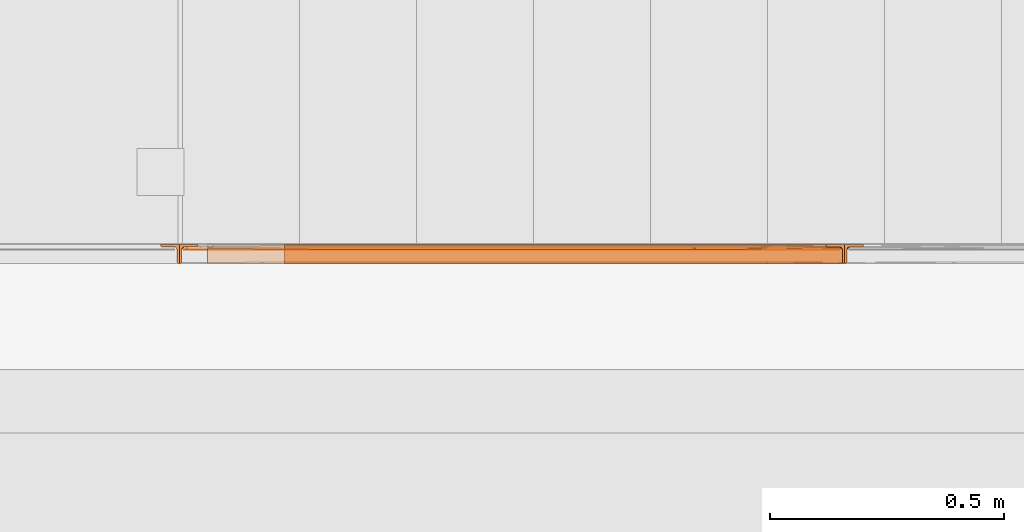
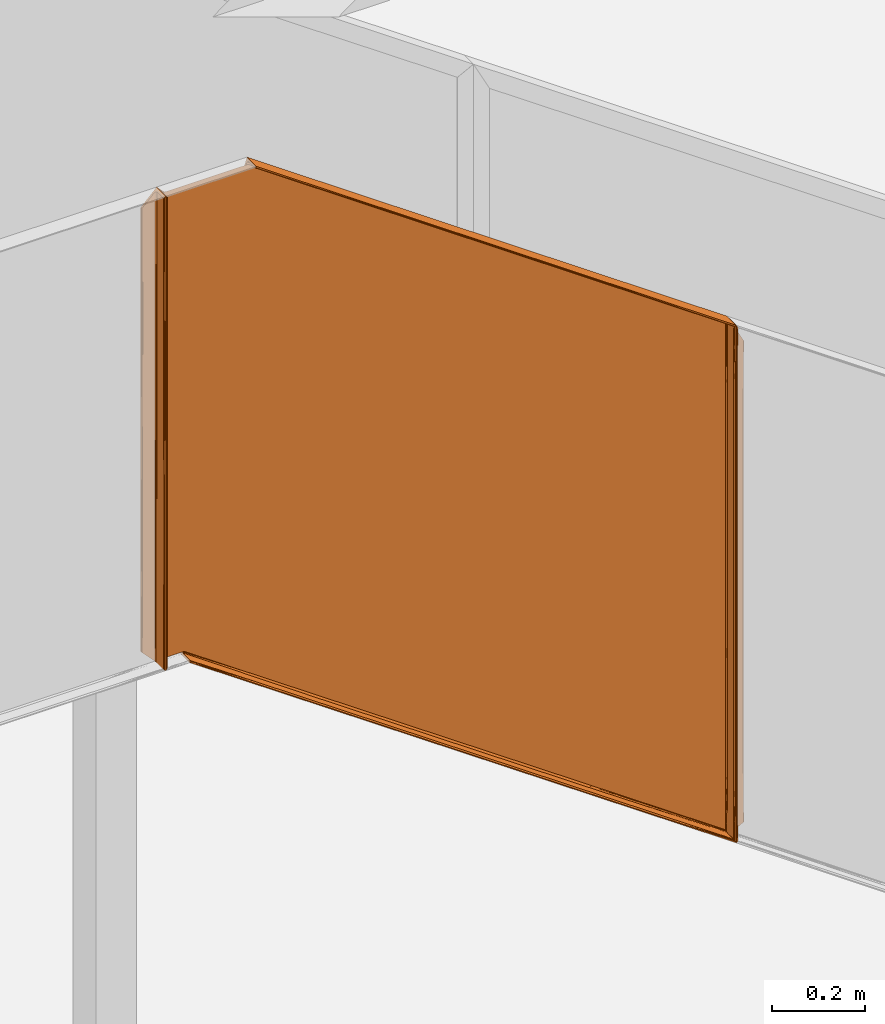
# One storey, part 217 of 230: 7 proxies.
"""IFC4X3_ADD2 building model written with IfcOpenShell, lengths in millimetres."""

from ifc_helpers import new_model, si_unit, direction, frame, origin_with_axes, place, context, subcontext, project, spatial, triangles, polygons, source, transform, mapped, material, type_object, type_shapes, element, save


model = new_model("IFC4X3_ADD2")

# Units and contexts
model_context = context("Model", 3, precision=1e-05, world=origin_with_axes(), true_north=direction((0.0, 1.0)))
body_context = subcontext(model_context, "Body", "Model", "MODEL_VIEW")
ifc_project = project(units=[si_unit("LENGTHUNIT", "METRE", prefix="MILLI"), si_unit("AREAUNIT", "SQUARE_METRE"), si_unit("VOLUMEUNIT", "CUBIC_METRE"), si_unit("PLANEANGLEUNIT", "RADIAN"), si_unit("TIMEUNIT", "SECOND"), si_unit("MASSUNIT", "GRAM")], contexts=[model_context])

# Site, building, storey
site_placement = place(None, origin_with_axes())
site = spatial("IfcSite", under=ifc_project, at=site_placement, Name="Site", CompositionType="ELEMENT")
building_placement = place(site_placement, origin_with_axes())
building = spatial("IfcBuilding", under=site, at=building_placement, Name="IFC Building Story")
storey_placement = place(building_placement, origin_with_axes())
storey = spatial("IfcBuildingStorey", under=building, at=storey_placement, Name="ETAGE 00 (0)", Elevation=0.0)

# Proxies
ifc_material = material(Name="<Unnamed>")
building_element_proxy_type_1 = type_object("IfcBuildingElementProxyType", Name="31", PredefinedType="NOTDEFINED")
shared_shape_1 = source(origin_with_axes(), body_context, "Body", "Tessellation", [
    polygons([(40.0, 0.0, 1250.0), (40.0, 0.0, 0.0), (38.0000000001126, 0.0, 0.0), (38.0000000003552, 0.0, 1248.00000000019), (0.0, 37.9999999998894, 40.0), (0.0, 40.0, 40.0), (0.0, 40.0, 1210.0), (0.0, 38.0000000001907, 1210.0), (40.0, 40.0, 0.0), (38.0000000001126, 40.0, 0.0), (36.3332893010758, 0.505591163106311, 1.75443231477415), (35.22836140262, 1.85194970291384, 2.91751431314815), (36.3332893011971, 0.505591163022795, 1246.33328930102), (35.0000000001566, 2.99999999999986, 3.1578947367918), (35.2283614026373, 1.85194970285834, 1245.22836140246), (35.0000000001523, 2.99999999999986, 1244.99999999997), (40.0, 40.0, 1250.0), (1.3332893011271, 35.5055911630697, 38.5965375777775), (0.228361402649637, 36.8519497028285, 39.7596195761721), (3.00000000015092, 35.0, 1212.99999999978), (3.00000000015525, 35.0, 36.8421052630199), (1.33328930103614, 35.5055911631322, 1211.33328930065), (0.228361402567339, 36.8519497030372, 1210.22836140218), (29.000000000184, 35.0000000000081, 9.47368421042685), (29.0000000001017, 35.0000000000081, 1238.99999999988), (31.9023133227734, 34.2513405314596, 6.41861755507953), (30.9816743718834, 34.6632999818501, 7.387711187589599), (32.7409388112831, 33.6909888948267, 1242.74093881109), (30.9816743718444, 34.6632999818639, 1240.98167437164), (34.663299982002, 30.9816743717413, 3.51231580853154), (33.6909888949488, 32.7409388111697, 4.5358011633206), (33.6909888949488, 32.7409388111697, 1243.69098889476), (32.6683980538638, 33.6044397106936, 5.61221257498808), (34.8495674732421, 30.3351256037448, 1244.84956747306), (35.0000000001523, 28.9999999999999, 1244.99999999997), (35.0000000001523, 28.9999999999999, 3.1578947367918)], [[[1, 2, 3, 4]], [[5, 6, 7, 8]], [[3, 2, 9, 10]], [[11, 12, 4]], [[4, 3, 11]], [[13, 4, 12]], [[12, 14, 13]], [[15, 13, 14]], [[14, 16, 15]], [[9, 2, 1, 17]], [[6, 10, 9]], [[6, 9, 17]], [[6, 17, 7]], [[18, 19, 20]], [[20, 21, 18]], [[22, 20, 19]], [[19, 5, 22]], [[23, 22, 5]], [[5, 8, 23]], [[24, 21, 20, 25]], [[26, 27, 28]], [[29, 28, 27]], [[27, 24, 25, 29]], [[30, 31, 32]], [[33, 28, 32]], [[32, 31, 33]], [[34, 35, 36]], [[36, 32, 34]], [[32, 36, 30]], [[28, 33, 26]], [[14, 36, 35, 16]], [[36, 14, 12]], [[36, 12, 11]], [[36, 11, 3]], [[36, 3, 10]], [[10, 30, 36]], [[10, 31, 30]], [[10, 33, 31]], [[10, 26, 33]], [[10, 27, 26]], [[10, 24, 27]], [[10, 6, 5]], [[10, 5, 19]], [[10, 19, 18]], [[10, 18, 21]], [[10, 21, 24]], [[35, 16, 15]], [[35, 15, 13]], [[35, 13, 4]], [[35, 4, 1]], [[35, 1, 17]], [[17, 34, 35]], [[17, 32, 34]], [[17, 28, 32]], [[17, 29, 28]], [[17, 25, 29]], [[17, 7, 8]], [[17, 8, 23]], [[17, 23, 22]], [[17, 22, 20]], [[17, 20, 25]]]),
])
type_shapes(building_element_proxy_type_1, [shared_shape_1])
proxy_1_placement = place(storey_placement, frame((34874.5206959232, 657.499963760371, 1670.0), z_axis=(0.0, 0.0, 1.0), x_axis=(1.0, 0.0, 0.0)))
element("IfcBuildingElementProxy", 1, at=proxy_1_placement, inside=storey, type_object=building_element_proxy_type_1, material=ifc_material, Name="16:5236", ObjectType="16:5236", context=body_context, shape_type="MappedRepresentation", body=[
    mapped(shared_shape_1, transform((0.0, 0.0, 0.0))),
])
building_element_proxy_type_2 = type_object("IfcBuildingElementProxyType", Name="33", PredefinedType="NOTDEFINED")
shared_shape_2 = source(origin_with_axes(), body_context, "Body", "Tessellation", [
    triangles([(34986.1109985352, 697.499867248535, 1709.99998397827), (36296.6891418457, 697.499867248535, 794.6262062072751), (35145.4733642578, 695.4999893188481, 1598.69326057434), (34986.1109985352, 695.4999893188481, 1709.99998397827), (36296.6891418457, 695.4999893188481, 794.6262062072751), (35649.3844665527, 657.4946056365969, 1200.34606361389), (36163.3623962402, 657.4986751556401, 841.30816783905), (36336.6890258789, 657.5223655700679, 717.7869283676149), (36334.6891479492, 657.499983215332, 721.628917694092), (34973.5629272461, 657.478327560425, 1669.9999546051), (34974.1907958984, 657.489373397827, 1672.00012321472), (35989.4660339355, 686.4999572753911, 966.447985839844), (36329.2592468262, 691.3235000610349, 732.0583683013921), (36330.1289611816, 690.721211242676, 730.3899381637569), (36331.2219177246, 689.073492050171, 728.2922464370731), (36331.6288696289, 687.4885597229, 727.5065385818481), (36331.6893310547, 686.4999572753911, 727.3918653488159), (35987.9010131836, 689.445562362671, 971.117177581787), (35647.7706115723, 689.584507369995, 1208.87657489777), (35305.01943969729, 686.501556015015, 1444.55891876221), (35307.4495239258, 689.572589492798, 1446.58568458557), (34975.3930480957, 689.4829147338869, 1675.83579025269), (34975.7558166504, 690.7584182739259, 1676.98906288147), (34975.132598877, 686.4999572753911, 1675.00023078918), (36325.6896972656, 692.4988643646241, 738.9177606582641), (36328.5011535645, 691.8499214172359, 733.5168548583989), (35309.7935668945, 692.500608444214, 1448.54443130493), (34975.876739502, 691.188915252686, 1677.37828330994), (34976.8836547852, 692.480260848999, 1680.5850643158), (34977.0138793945, 692.5004631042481, 1681.00044593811), (34985.1691955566, 692.50075378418, 1707.00016708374), (35142.5247070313, 692.500608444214, 1597.09408493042), (36134.3804443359, 692.500317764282, 904.324742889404), (36299.6889587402, 692.5001724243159, 788.863258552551), (36296.7844848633, 694.6525119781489, 794.444240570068), (36297.121673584, 693.8393348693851, 793.7982044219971), (36298.5006591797, 692.7378032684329, 791.145459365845), (34985.7249755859, 693.121064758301, 1708.77127990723), (34986.0017028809, 694.1367004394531, 1709.65494689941), (35137.57384643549, 660.4999454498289, 1561.52852325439), (36331.6916564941, 660.4976200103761, 727.393754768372), (34974.9930725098, 658.972422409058, 1674.56130409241), (34975.132598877, 660.4999454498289, 1675.00023078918), (34974.7419250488, 658.105469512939, 1673.7559753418), (36331.8335083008, 659.4687583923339, 727.116882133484), (36333.758972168, 657.6541889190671, 723.417035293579), (36332.1823242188, 658.737117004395, 726.44381275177), (34973.5629272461, 697.499867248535, 1669.9999546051), (36336.6890258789, 697.499867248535, 717.7869283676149)], [[1, 2, 3], [3, 4, 1], [5, 3, 2], [6, 7, 8], [9, 8, 7], [8, 10, 6], [6, 10, 11], [12, 13, 14], [12, 15, 16], [12, 16, 17], [12, 14, 15], [18, 12, 19], [19, 20, 21], [20, 19, 12], [21, 22, 23], [21, 20, 22], [20, 24, 22], [18, 25, 26], [18, 25, 19], [19, 27, 21], [27, 19, 25], [18, 26, 13], [27, 23, 28], [27, 29, 30], [27, 28, 29], [27, 21, 23], [13, 12, 18], [31, 32, 30], [30, 32, 27], [33, 34, 25], [25, 27, 33], [33, 27, 32], [5, 33, 3], [32, 3, 33], [33, 5, 35], [33, 36, 37], [33, 35, 36], [33, 37, 34], [32, 31, 38], [3, 39, 4], [3, 38, 39], [38, 3, 32], [11, 40, 6], [6, 41, 7], [41, 6, 40], [40, 42, 43], [40, 44, 42], [40, 11, 44], [7, 41, 45], [7, 46, 9], [7, 47, 46], [7, 45, 47], [1, 48, 2], [49, 2, 48], [10, 8, 48], [49, 48, 8], [43, 24, 40], [40, 24, 20], [41, 40, 12], [41, 12, 17], [12, 40, 20], [2, 25, 34], [25, 2, 49], [26, 25, 49], [13, 26, 49], [49, 14, 13], [5, 2, 37], [5, 36, 35], [36, 5, 37], [2, 34, 37], [46, 47, 41], [46, 41, 9], [8, 9, 41], [45, 41, 47], [15, 14, 49], [16, 49, 17], [41, 17, 8], [15, 49, 16], [17, 49, 8], [43, 10, 11], [44, 43, 11], [43, 24, 10], [43, 44, 42], [24, 48, 10], [24, 22, 48], [48, 22, 23], [23, 28, 48], [30, 1, 48], [28, 29, 48], [31, 38, 4], [4, 1, 31], [4, 38, 39], [31, 1, 30], [30, 48, 29]]),
])
type_shapes(building_element_proxy_type_2, [shared_shape_2])
proxy_2_placement = place(storey_placement, origin_with_axes())
element("IfcBuildingElementProxy", 2, at=proxy_2_placement, inside=storey, type_object=building_element_proxy_type_2, material=ifc_material, Name="17:5593", ObjectType="17:5593", context=body_context, shape_type="MappedRepresentation", body=[
    mapped(shared_shape_2, transform((0.0, 0.0, 0.0))),
])
building_element_proxy_type_3 = type_object("IfcBuildingElementProxyType", Name="35", PredefinedType="NOTDEFINED")
shared_shape_3 = source(origin_with_axes(), body_context, "Body", "Tessellation", [
    triangles([(34914.5200195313, 657.499983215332, 2919.99996414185), (34916.5198974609, 657.499983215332, 2918.00008621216), (34916.5198974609, 657.499983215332, 2761.52678833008), (34914.5200195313, 657.499983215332, 1669.9999546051), (34916.5198974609, 657.499983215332, 1821.07823295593), (34916.5198974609, 657.499983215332, 1671.99997787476), (34914.5200195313, 697.499867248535, 1669.9999546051), (34914.5200195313, 697.499867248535, 2919.99996414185), (34954.5199035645, 697.499867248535, 1709.99998397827), (34954.5199035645, 695.4999893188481, 1709.99998397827), (34954.5199035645, 697.499867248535, 2880.00008010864), (34954.5199035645, 695.4999893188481, 2880.00008010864), (34953.526940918, 693.285444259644, 2880.99391479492), (34954.2268981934, 694.223323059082, 2880.2927947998), (34951.5200866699, 692.499881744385, 2735.33158493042), (34951.5200866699, 692.499881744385, 2882.99989700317), (34951.5200866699, 692.499881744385, 1847.72878646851), (34954.2361999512, 694.2455600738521, 1709.71555366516), (34953.5897277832, 693.362619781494, 1709.06835479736), (34951.5200866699, 692.499881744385, 1707.00002174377), (34925.521673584, 692.499881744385, 1681.00000991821), (34925.521673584, 692.499881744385, 2288.23372993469), (34925.521673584, 692.499881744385, 2909.0000541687), (34918.526751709, 658.2855457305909, 2915.99381332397), (34919.2290344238, 659.223424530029, 2915.29269332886), (34919.5197143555, 660.4999454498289, 2914.9999786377), (34919.5197143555, 660.4999454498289, 1674.99994010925), (34919.2313598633, 659.236795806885, 1674.71114959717), (34918.5802368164, 658.3512393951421, 1674.05857315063), (34923.4869140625, 692.134497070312, 2911.03481369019), (34922.8962524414, 691.879861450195, 2911.62344055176), (34921.4498291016, 690.8745449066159, 2913.07131729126), (34921.3149536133, 690.694759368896, 2913.20473937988), (34920.1243286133, 689.091078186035, 2914.39594573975), (34919.5197143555, 686.4999572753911, 2914.9999786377), (34922.2521057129, 689.2518241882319, 2601.37202911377), (34922.3497741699, 689.349201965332, 2289.93813171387), (34919.5197143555, 686.4999572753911, 2603.66404037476), (34922.4195373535, 689.4353885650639, 1978.52545394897), (34919.5197143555, 686.4999572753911, 1979.15433998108), (34921.3126281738, 690.632699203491, 1676.79081916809), (34921.0242736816, 690.4066955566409, 1676.50420875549), (34919.7104003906, 687.9879478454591, 1675.18989944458), (34919.5197143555, 686.4999572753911, 1674.99994010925), (34923.6055114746, 692.1467056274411, 1679.08355712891), (34922.7567260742, 691.77085647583, 1678.23491706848)], [[1, 2, 3], [1, 3, 4], [5, 6, 4], [5, 4, 3], [7, 8, 4], [1, 4, 8], [9, 10, 11], [12, 11, 10], [13, 14, 15], [15, 16, 13], [15, 12, 10], [10, 17, 15], [15, 14, 12], [17, 10, 18], [17, 19, 20], [17, 18, 19], [21, 17, 20], [17, 21, 22], [22, 23, 15], [16, 15, 23], [22, 15, 17], [24, 25, 3], [3, 2, 24], [3, 26, 27], [27, 5, 3], [3, 25, 26], [5, 27, 28], [5, 29, 6], [5, 28, 29], [16, 11, 12], [14, 13, 12], [16, 12, 13], [11, 23, 8], [23, 11, 16], [30, 31, 8], [23, 30, 8], [8, 31, 32], [33, 34, 8], [35, 26, 1], [34, 35, 8], [33, 8, 32], [25, 24, 26], [1, 26, 2], [26, 24, 2], [35, 1, 8], [32, 31, 36], [36, 23, 22], [22, 37, 36], [36, 30, 23], [36, 31, 30], [33, 36, 38], [38, 34, 33], [22, 21, 39], [37, 39, 40], [40, 41, 42], [40, 43, 44], [40, 42, 43], [39, 21, 45], [39, 46, 41], [39, 45, 46], [40, 39, 41], [37, 40, 38], [38, 36, 37], [39, 37, 22], [38, 35, 34], [36, 33, 32], [44, 27, 40], [40, 27, 38], [38, 26, 35], [26, 38, 27], [7, 9, 11], [11, 8, 7], [27, 4, 6], [6, 29, 27], [28, 27, 29], [44, 4, 27], [4, 44, 7], [43, 42, 7], [44, 43, 7], [7, 42, 41], [20, 19, 10], [18, 10, 19], [20, 10, 9], [41, 46, 7], [21, 9, 7], [45, 21, 7], [20, 9, 21], [46, 45, 7]]),
])
type_shapes(building_element_proxy_type_3, [shared_shape_3])
proxy_3_placement = place(storey_placement, origin_with_axes())
element("IfcBuildingElementProxy", 3, at=proxy_3_placement, inside=storey, type_object=building_element_proxy_type_3, material=ifc_material, Name="18:5941", ObjectType="18:5941", context=body_context, shape_type="MappedRepresentation", body=[
    mapped(shared_shape_3, transform((0.0, 0.0, 0.0))),
])
building_element_proxy_type_4 = type_object("IfcBuildingElementProxyType", Name="41", PredefinedType="NOTDEFINED")
shared_shape_4 = source(origin_with_axes(), body_context, "Body", "Tessellation", [
    polygons([(40.0, 40.0, 20.8226812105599), (40.0, 37.9999999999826, 20.8226812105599), (40.0, 38.0000000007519, 1286.24636915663), (40.0, 40.0, 1286.24636915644), (0.0, 0.0, 1363.97394211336), (1.99999999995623, 0.0, 1360.08756346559), (2.00000000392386, 0.0, 1190.20675943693), (2.00000002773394, 0.0, 170.921935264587), (2.0000000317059, 0.0, 1.04113406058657), (3.15937313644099e-08, 0.0, 0.0), (39.9026397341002, 37.0514046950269, 1286.43555857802), (39.5055652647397, 36.1117012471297, 1287.2071494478), (38.5611107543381, 35.3158011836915, 1289.04240336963), (36.9999999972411, 35.0000000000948, 1292.07593712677), (11.0000000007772, 35.0000000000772, 1342.59885955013), (10.3602705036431, 34.9762026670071, 1343.84197507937), (8.44545299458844, 34.3983564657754, 1347.56282802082), (7.29401034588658, 34.0508785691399, 1349.80029908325), (6.5699911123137, 33.3526957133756, 1351.20720552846), (6.01890713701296, 32.8212769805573, 1352.27806602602), (5.29480501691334, 31.2770728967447, 1353.68513353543), (5.00000000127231, 29.0000000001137, 1354.25799549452), (4.99999999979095, 2.99999999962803, 1354.25799549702), (4.8996914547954, 2.0418368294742, 1354.45291399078), (4.49695366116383, 1.09883517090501, 1355.23550977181), (3.56281096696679, 0.314212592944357, 1357.05072588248), (0.0, 40.0, 1363.97394211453), (5.000000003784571, 29.0000000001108, 1185.30110075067), (5.000000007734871, 29.0000000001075, 1016.34420600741), (5.000000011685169, 29.0000000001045, 847.38731126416), (5.000000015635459, 29.0000000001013, 678.4304165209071), (5.00000002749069, 29.0000000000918, 171.559732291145), (5.00000003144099, 29.0000000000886, 2.6028351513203), (5.00000003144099, 3.00000000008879, 2.6028351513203), (7.73467017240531, 31.7732058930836, 676.4976916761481), (7.883024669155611, 31.9215407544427, 508.317851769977), (7.96952983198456, 32.0072246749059, 340.235597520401), (7.95812309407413, 31.9937262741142, 172.185087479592), (5.09348641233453, 29.2615498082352, 1185.1497326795), (11.0000000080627, 35.0000000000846, 1008.38070458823), (8.44950330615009, 34.5892745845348, 1011.78008614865), (6.77279433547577, 33.219907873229, 3.52569341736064), (5.793385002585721, 32.1355961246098, 3.0158452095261), (7.05825681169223, 32.3578886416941, 1013.59810145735), (7.55959778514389, 31.6256527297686, 844.7872437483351), (11.0000000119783, 35.000000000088, 841.271627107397), (10.9989398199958, 35.001072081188, 5.72623733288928), (8.9985577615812, 34.7001330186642, 4.684352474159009), (7.39027144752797, 33.9035216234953, 3.84713164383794), (37.0000000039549, 35.0000000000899, 1132.97406747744), (37.0000000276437, 35.0000000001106, 178.362849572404), (37.000000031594, 35.000000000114, 19.2609801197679), (39.6148265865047, 36.4534197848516, 20.622172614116), (38.710067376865, 35.4844919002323, 20.1511847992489), (3.15937313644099e-08, 40.0, 0.0), (4.61571355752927, 1.45501929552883, 2.40278828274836), (3.71202321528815, 0.4857657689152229, 1.93235688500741)], [[[1, 2, 3, 4]], [[8, 9, 10]], [[10, 7, 8]], [[10, 5, 7]], [[5, 6, 7]], [[6, 5, 27]], [[6, 27, 22]], [[22, 23, 24]], [[22, 24, 25]], [[22, 25, 26]], [[22, 26, 6]], [[27, 21, 22]], [[27, 20, 21]], [[27, 19, 20]], [[27, 18, 19]], [[27, 17, 18]], [[27, 16, 17]], [[27, 15, 16]], [[27, 4, 14]], [[27, 14, 15]], [[4, 3, 11]], [[4, 11, 12]], [[4, 12, 13]], [[4, 13, 14]], [[32, 33, 34]], [[34, 31, 32]], [[34, 30, 31]], [[34, 29, 30]], [[34, 23, 29]], [[23, 28, 29]], [[23, 22, 28]], [[37, 38, 32]], [[32, 36, 37]], [[32, 31, 36]], [[31, 35, 36]], [[21, 20, 28]], [[19, 39, 28]], [[28, 20, 19]], [[15, 40, 41]], [[41, 16, 15]], [[42, 43, 32]], [[43, 33, 32]], [[30, 29, 44]], [[29, 28, 39]], [[45, 35, 31]], [[40, 46, 45]], [[45, 41, 40]], [[18, 17, 39]], [[39, 19, 18]], [[17, 41, 39]], [[36, 35, 46]], [[46, 37, 36]], [[46, 38, 37]], [[46, 47, 38]], [[47, 48, 38]], [[49, 42, 38]], [[38, 48, 49]], [[35, 45, 46]], [[41, 44, 39]], [[45, 44, 41]], [[31, 30, 45]], [[39, 44, 29]], [[44, 45, 30]], [[32, 38, 42]], [[41, 17, 16]], [[28, 22, 21]], [[40, 15, 14]], [[40, 14, 50]], [[50, 46, 40]], [[51, 52, 47]], [[46, 50, 51]], [[51, 47, 46]], [[12, 11, 50]], [[50, 13, 12]], [[50, 14, 13]], [[50, 11, 3]], [[3, 2, 51, 50]], [[2, 53, 51]], [[54, 52, 51]], [[51, 53, 54]], [[55, 1, 4, 27]], [[27, 5, 10, 55]], [[25, 24, 7]], [[7, 26, 25]], [[7, 6, 26]], [[7, 24, 23]], [[23, 34, 8, 7]], [[34, 56, 8]], [[57, 9, 8]], [[8, 56, 57]], [[47, 52, 54]], [[47, 54, 53]], [[47, 53, 2]], [[47, 2, 1]], [[47, 1, 55]], [[55, 48, 47]], [[55, 49, 48]], [[55, 42, 49]], [[55, 43, 42]], [[55, 33, 43]], [[55, 10, 9]], [[55, 9, 57]], [[55, 57, 56]], [[55, 56, 34]], [[55, 34, 33]]]),
])
type_shapes(building_element_proxy_type_4, [shared_shape_4])
proxy_4_placement = place(storey_placement, frame((36336.6894781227, 657.499963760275, 717.786953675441), z_axis=(0.0, 0.0, 1.0), x_axis=(1.0, 0.0, 0.0)))
element("IfcBuildingElementProxy", 4, at=proxy_4_placement, inside=storey, type_object=building_element_proxy_type_4, material=ifc_material, Name="21:6932", ObjectType="21:6932", context=body_context, shape_type="MappedRepresentation", body=[
    mapped(shared_shape_4, transform((0.0, 0.0, 0.0))),
])
building_element_proxy_type_5 = type_object("IfcBuildingElementProxyType", Name="43", PredefinedType="NOTDEFINED")
shared_shape_5 = source(origin_with_axes(), body_context, "Body", "Tessellation", [
    polygons([(0.0, 40.0000004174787, 1343.38922630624), (0.0, 38.0000004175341, 1343.38922630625), (3.1550416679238e-08, 38.0000004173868, 76.8392861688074), (3.153309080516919e-08, 40.0000004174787, 76.8392861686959), (40.0, 40.0000004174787, 1363.97394211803), (40.0, 4.17478576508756e-07, 1363.97394211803), (38.0000000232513, 7.353634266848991e-07, 1362.94470633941), (36.3472179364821, 0.436273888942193, 1362.09415510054), (35.4759280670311, 1.28237095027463, 1361.64577374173), (34.9999999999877, 3.00000041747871, 1361.40085264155), (34.9999999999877, 29.0000004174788, 1361.40085264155), (34.90415221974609, 30.1797434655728, 1361.35152765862), (33.9574514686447, 32.5762552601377, 1360.86433851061), (31.522902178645, 34.5248024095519, 1359.61147587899), (28.9999999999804, 35.0000004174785, 1358.31314526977), (3.00000000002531, 35.0000004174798, 1344.93307999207), (1.3472084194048, 35.4362795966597, 1344.08252386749), (0.475921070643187, 36.2823817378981, 1343.63414380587), (32.0591263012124, 32.0106180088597, 1191.80808024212), (29.0000000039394, 35.0000004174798, 1191.1653525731), (32.4273967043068, 31.6155508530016, 519.098419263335), (35.0021252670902, 29.0020941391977, 516.528389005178), (34.9981709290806, 28.9981984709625, 1023.45186714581), (32.0316614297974, 32.0093710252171, 1023.72922419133), (32.1156284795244, 31.9267626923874, 855.6192247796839), (32.2621444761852, 31.7806650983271, 687.413161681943), (35.0000000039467, 29.0000004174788, 1192.42635990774), (32.6632831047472, 34.1181119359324, 14.0937022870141), (31.5871078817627, 34.4183472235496, 16.1610156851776), (34.8927831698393, 29.2307257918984, 178.725506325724), (33.457027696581, 33.3787580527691, 12.5689330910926), (31.579518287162, 34.6016226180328, 352.023741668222), (29.0005109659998, 35.0005179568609, 355.426389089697), (29.0000000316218, 35.00000041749, 21.1308036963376), (29.5551867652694, 34.9852199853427, 20.0642998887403), (35.0000000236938, 29.0000004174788, 347.553896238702), (35.0000000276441, 29.0000004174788, 178.579403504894), (32.92471256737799, 32.4029650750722, 350.250117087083), (34.6938526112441, 31.3544471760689, 10.1930145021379), (33.9451303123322, 32.9241022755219, 11.6312966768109), (35.0000000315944, 29.0000004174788, 9.60491077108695), (3.00000003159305, 35.0000004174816, 71.0763397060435), (3.00000002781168, 35.0000004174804, 223.620669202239), (3.00000000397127, 35.0000004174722, 1184.74559273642), (0.5048259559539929, 36.0719098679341, 75.8695245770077), (0.129336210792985, 36.9098580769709, 76.5908336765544), (1.64893539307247, 35.2123895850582, 73.6717107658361), (38.0000000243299, 6.561424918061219e-07, 1192.03753435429), (35.504813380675, 1.07192806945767, 8.63517333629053), (35.1293293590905, 1.90988395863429, 9.35647144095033), (38.0000000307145, 1.80815528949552e-07, 166.594502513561), (36.6489521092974, 0.212383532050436, 6.43730325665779), (38.0000000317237, 1.05374477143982e-07, 3.84196430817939), (35.0000000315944, 3.00000041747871, 9.60491077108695), (40.0, 3.12104234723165e-07, 0.0), (40.0, 40.0000004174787, 0.0)], [[[1, 2, 3, 4]], [[15, 16, 17]], [[15, 17, 18]], [[15, 18, 2]], [[15, 2, 1]], [[15, 1, 5]], [[5, 14, 15]], [[5, 13, 14]], [[5, 12, 13]], [[5, 11, 12]], [[5, 6, 7]], [[5, 7, 8]], [[5, 8, 9]], [[5, 9, 10]], [[5, 10, 11]], [[15, 14, 19]], [[19, 20, 15]], [[14, 13, 19]], [[26, 21, 22]], [[22, 25, 26]], [[22, 23, 25]], [[23, 24, 25]], [[13, 12, 19]], [[27, 19, 12]], [[12, 11, 27]], [[28, 29, 30]], [[30, 31, 28]], [[29, 32, 30]], [[26, 21, 33]], [[33, 25, 26]], [[33, 24, 25]], [[33, 20, 24]], [[21, 32, 33]], [[34, 33, 32]], [[32, 35, 34]], [[20, 19, 24]], [[19, 27, 23]], [[36, 37, 30]], [[22, 36, 38]], [[39, 40, 37]], [[31, 30, 37]], [[37, 40, 31]], [[37, 41, 39]], [[38, 21, 22]], [[32, 30, 36, 38]], [[23, 24, 19]], [[32, 29, 35]], [[21, 38, 32]], [[33, 34, 42]], [[33, 42, 43]], [[43, 44, 20]], [[43, 20, 33]], [[44, 16, 15]], [[44, 15, 20]], [[2, 18, 44]], [[17, 16, 44]], [[44, 18, 17]], [[45, 46, 43]], [[43, 47, 45]], [[43, 42, 47]], [[43, 46, 3]], [[3, 2, 44, 43]], [[10, 9, 48]], [[8, 7, 48]], [[48, 9, 8]], [[49, 50, 51]], [[51, 52, 49]], [[51, 53, 52]], [[51, 50, 54]], [[54, 10, 48, 51]], [[48, 7, 6]], [[6, 51, 48]], [[6, 55, 51]], [[55, 53, 51]], [[5, 1, 4, 56]], [[56, 55, 6, 5]], [[27, 11, 10]], [[10, 23, 27]], [[10, 22, 23]], [[10, 36, 22]], [[10, 54, 36]], [[54, 37, 36]], [[54, 41, 37]], [[53, 55, 56]], [[53, 56, 41]], [[41, 54, 50]], [[41, 50, 49]], [[41, 49, 52]], [[41, 52, 53]], [[56, 39, 41]], [[56, 40, 39]], [[56, 31, 40]], [[56, 28, 31]], [[56, 29, 28]], [[56, 35, 29]], [[56, 34, 35]], [[56, 4, 42]], [[56, 42, 34]], [[4, 3, 46]], [[4, 46, 45]], [[4, 45, 47]], [[4, 47, 42]]]),
])
type_shapes(building_element_proxy_type_5, [shared_shape_5])
proxy_5_placement = place(storey_placement, frame((36296.6894781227, 657.499963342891, 717.786953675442), z_axis=(0.0, 0.0, 1.0), x_axis=(1.0, 0.0, 0.0)))
element("IfcBuildingElementProxy", 5, at=proxy_5_placement, inside=storey, type_object=building_element_proxy_type_5, material=ifc_material, Name="22:7336", ObjectType="22:7336", context=body_context, shape_type="MappedRepresentation", body=[
    mapped(shared_shape_5, transform((0.0, 0.0, 0.0))),
])
building_element_proxy_type_6 = type_object("IfcBuildingElementProxyType", Name="51", PredefinedType="NOTDEFINED")
shared_shape_6 = source(origin_with_axes(), body_context, "Body", "Tessellation", [
    triangles([(36296.6891418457, 697.499867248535, 2061.17622299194), (35126.7419494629, 697.499867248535, 2880.0024055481), (36296.6891418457, 695.4999893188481, 2061.17622299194), (35126.7419494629, 695.4999893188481, 2880.0024055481), (36336.6890258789, 657.499983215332, 2081.76086769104), (36334.6891479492, 657.499983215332, 2080.7315700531), (36035.7469299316, 657.499983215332, 2290.04873542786), (35139.5597717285, 657.499983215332, 2919.99996414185), (35437.8624938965, 657.499983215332, 2708.6829208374), (35138.9202758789, 657.499983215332, 2918.00008621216), (35136.0344055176, 692.499881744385, 2909.00063552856), (35127.7046813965, 692.499881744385, 2883.00222244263), (35139.5597717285, 697.499867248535, 2919.99996414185), (35136.8762145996, 691.941194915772, 2911.62344055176), (35137.6575622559, 689.849171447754, 2914.0666053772), (35127.158203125, 692.996799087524, 2881.29796600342), (35126.8768249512, 693.9003776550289, 2880.4250541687), (35138.3737976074, 657.9941390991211, 2916.29786453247), (35137.9575439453, 660.4999454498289, 2915.00026931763), (35138.0924194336, 658.8985897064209, 2915.42291793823), (35137.9389404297, 687.4541141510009, 2914.93864517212), (35137.9575439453, 686.4999572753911, 2915.00026931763), (36336.6890258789, 697.499867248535, 2081.76086769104), (36331.6846801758, 660.49122505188, 2079.18064727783), (36332.8892578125, 658.0421012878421, 2079.805027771), (36332.0846557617, 658.9285297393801, 2079.39153556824), (36331.6893310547, 686.4999572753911, 2079.18776893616), (35734.8234375, 686.4999572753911, 2497.09409179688), (35732.8491394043, 689.503989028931, 2494.83027648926), (36325.6896972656, 692.499881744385, 2076.1000213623), (36331.6056152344, 687.5869548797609, 2079.14431228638), (36330.6382324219, 690.045961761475, 2078.64724960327), (36328.1430358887, 692.037409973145, 2077.36229896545), (36299.6889587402, 692.499881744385, 2062.72002410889), (36006.6928894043, 692.499881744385, 2267.7906463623), (35420.7007507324, 692.499881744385, 2677.93160018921), (36297.8867431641, 693.048685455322, 2061.79188308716), (36297.0867919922, 693.932933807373, 2061.38042564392)], [[1, 2, 3], [4, 3, 2], [5, 6, 7], [5, 7, 8], [9, 10, 8], [9, 8, 7], [2, 11, 12], [11, 2, 13], [14, 11, 13], [13, 15, 14], [2, 12, 4], [16, 17, 4], [12, 16, 4], [10, 18, 19], [19, 8, 10], [19, 18, 20], [21, 15, 13], [19, 22, 8], [13, 22, 21], [22, 13, 8], [13, 2, 1], [1, 23, 13], [9, 19, 20], [19, 9, 7], [7, 24, 19], [9, 18, 10], [9, 20, 18], [25, 26, 7], [7, 6, 25], [7, 26, 24], [24, 27, 28], [28, 22, 19], [28, 19, 24], [29, 15, 21], [28, 29, 21], [28, 21, 22], [29, 14, 15], [29, 11, 14], [30, 11, 29], [28, 27, 31], [31, 29, 28], [32, 33, 29], [29, 31, 32], [29, 33, 30], [30, 34, 35], [30, 35, 11], [36, 12, 11], [36, 11, 35], [36, 4, 17], [35, 3, 4], [4, 36, 35], [36, 16, 12], [36, 17, 16], [37, 38, 35], [35, 34, 37], [35, 38, 3], [13, 23, 8], [5, 8, 23], [34, 1, 3], [38, 37, 3], [34, 3, 37], [34, 30, 1], [30, 33, 23], [30, 23, 1], [23, 33, 32], [32, 31, 23], [27, 24, 5], [27, 5, 23], [25, 6, 24], [5, 24, 6], [26, 25, 24], [27, 23, 31]]),
])
type_shapes(building_element_proxy_type_6, [shared_shape_6])
proxy_6_placement = place(storey_placement, origin_with_axes())
element("IfcBuildingElementProxy", 6, at=proxy_6_placement, inside=storey, type_object=building_element_proxy_type_6, material=ifc_material, Name="26:8578", ObjectType="26:8578", context=body_context, shape_type="MappedRepresentation", body=[
    mapped(shared_shape_6, transform((0.0, 0.0, 0.0))),
])
building_element_proxy_type_7 = type_object("IfcBuildingElementProxyType", Name="55", PredefinedType="NOTDEFINED")
shared_shape_7 = source(origin_with_axes(), body_context, "Body", "Tessellation", [
    triangles([(6.10260599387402e-08, 0.0, 2170.0822426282), (0.0, 0.0, 942.0822425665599), (51.49302871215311, 0.0, 942.082667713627), (1400.16878229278, 0.0, 0.0), (1400.16878226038, 0.0, 1337.18234157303), (210.514160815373, 0.0, 2170.08224262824)], [[3, 4, 5], [3, 5, 6], [3, 6, 1], [1, 2, 3]]),
])
type_shapes(building_element_proxy_type_7, [shared_shape_7])
proxy_7_placement = place(storey_placement, frame((34925.5206958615, 686.4999637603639, 738.91775737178), z_axis=(0.0, 0.0, 1.0), x_axis=(1.0, 0.0, 0.0)))
element("IfcBuildingElementProxy", 7, at=proxy_7_placement, inside=storey, type_object=building_element_proxy_type_7, material=ifc_material, Name="28:9258", ObjectType="28:9258", context=body_context, shape_type="MappedRepresentation", body=[
    mapped(shared_shape_7, transform((0.0, 0.0, 0.0))),
])

save(model, "model.ifc")
